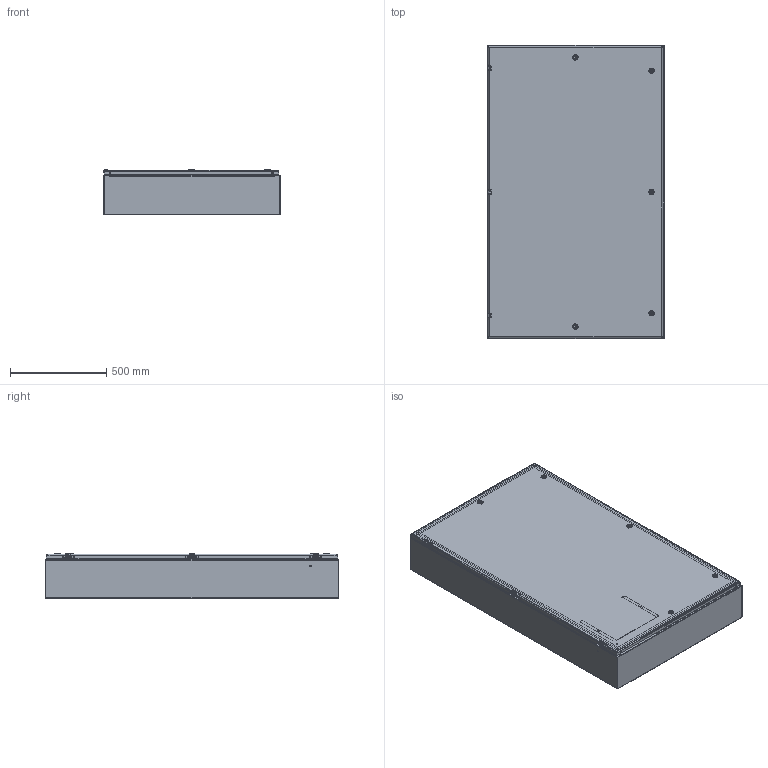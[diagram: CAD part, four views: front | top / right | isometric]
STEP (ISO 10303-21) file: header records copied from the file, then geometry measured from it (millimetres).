
FILE_DESCRIPTION((''),'2;1');
FILE_NAME('MODEL-305_ASM','2025-02-21T07:07:36',('joshi'),('SAGINAW CONTROL & ENGINEERING'),'CREO PARAMETRIC BY PTC INC, 2021284','CREO PARAMETRIC BY PTC INC, 2021284','');
FILE_SCHEMA(('AUTOMOTIVE_DESIGN { 1 0 10303 214 1 1 1 1 }'));
Length unit declared in the file: inch
Products named in the file (29): MODEL-305-BDY; MODEL-305-TP; MODEL-305-BTM; MODEL-305-DR; 100837; 100882; 111267; 100794_SHAFT; 100794_INSERT; 100794_CAM; 100794_NUT; 100794_SCREW; 100794_ASM; MODEL-305-DOOR-GASKET; 128257; 128257_ASM; 126393; 102483; 101226; 101376; 102140; 132757; MODEL-305-DOOR-ASSY_ASM; 101653; 122193; SUBPANEL; 100904; SUBPANEL-SUBASSEMBLY_ASM; MODEL-305_ASM
Assembly tree (70 placements, depth 4):
  MODEL-305_ASM
    MODEL-305-BDY
    MODEL-305-TP
    MODEL-305-BTM
    MODEL-305-DOOR-ASSY_ASM
      MODEL-305-DR
      100837  x3
      100882  x2
      111267
      100794_ASM  x5
        100794_SHAFT
        100794_INSERT
        100794_CAM
        100794_NUT
        100794_SCREW
      MODEL-305-DOOR-GASKET
      128257_ASM  x3
        128257
      126393  x3
      102483  x9
      101226  x3
      101376  x3
      102140  x3
      132757  x3
    100837
    101653  x8
    122193
    SUBPANEL-SUBASSEMBLY_ASM
      SUBPANEL
      100904  x8
Bounding box: 914.4 x 1524 x 235.06 mm (x, y, z)
Volume: 13772939.4 mm3; surface area: 11208253 mm2
Topology: 84 solids, 84 shells, 5138 faces, 12895 edges, 8068 vertices
Faces by surface type: plane 2388, cylinder 1481, bspline 568, torus 377, cone 220, sphere 104
Entity records: 89064 total; most frequent: CARTESIAN_POINT 25248, ORIENTED_EDGE 9212, DIRECTION 8813, PRESENTATION_STYLE_ASSIGNMENT 4804, EDGE_CURVE 4606, STYLED_ITEM 4529, CURVE_STYLE 4444, AXIS2_PLACEMENT_3D 3228
